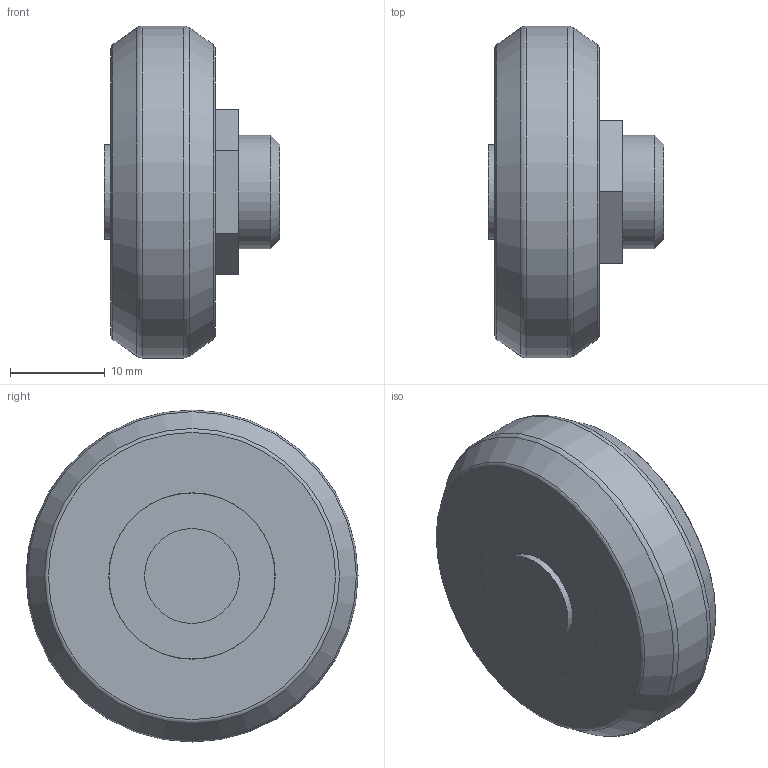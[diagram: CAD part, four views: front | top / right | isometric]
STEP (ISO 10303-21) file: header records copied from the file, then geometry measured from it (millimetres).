
FILE_DESCRIPTION( ( 'STEP AP203' ), '1' );
FILE_NAME( 'C:/Temp/Ganter_Step_05_03_2020/data/3_8/gn2426/Track GN 2426-43-N-2RS.stp', '2020-03-12T15:07:23', ( 'License CC BY-ND 4.0' ), ( 'CADENAS' ), ' ', 'PARTsolutions', ' ' );
FILE_SCHEMA( ( 'CONFIG_CONTROL_DESIGN' ) );
Length unit declared in the file: millimetre
Products named in the file (1): _Track GN 2426-43-N-2RS
Bounding box: 18.5 x 35 x 35 mm (x, y, z)
Volume: 10621.2 mm3; surface area: 3303.9 mm2
Topology: 1 solids, 1 shells, 28 faces, 54 edges, 33 vertices
Faces by surface type: plane 13, cylinder 6, cone 5, torus 4
Full cylindrical faces by diameter (mm): 4.917 x1, 10 x1, 12 x1, 17.5 x1, 17.54 x1, 35 x1
Entity records: 670 total; most frequent: DIRECTION 116, CARTESIAN_POINT 100, ORIENTED_EDGE 76, AXIS2_PLACEMENT_3D 49, EDGE_LOOP 48, FACE_OUTER_BOUND 38, EDGE_CURVE 38, VERTEX_POINT 33
